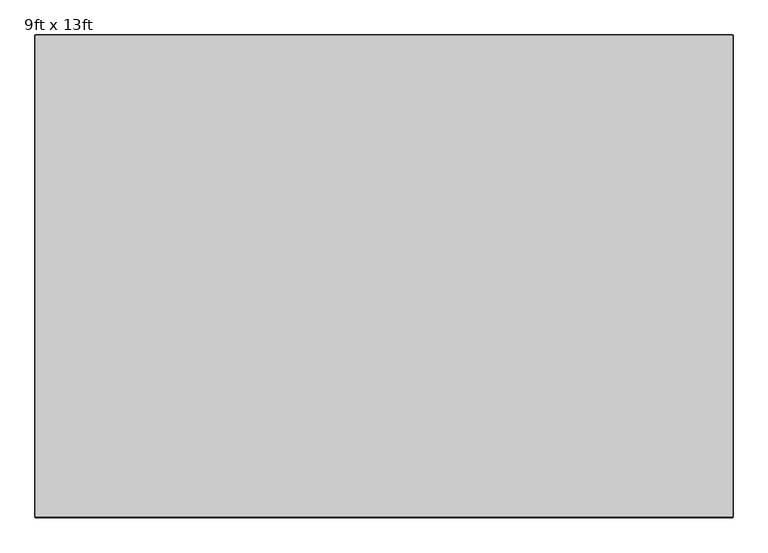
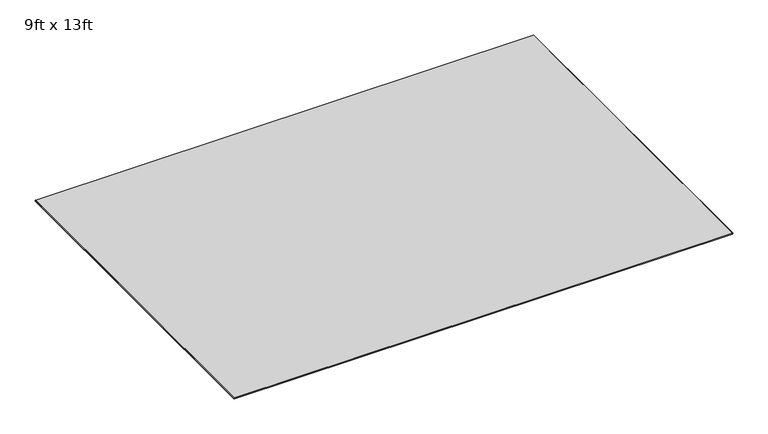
"""IFC4 building model written with IfcOpenShell, lengths in millimetres: furniture geometry, Steelcase Coalesse - Nanimarquina - Rug - Diagonal : 9ft x 13ft."""

from ifc_helpers import new_model, si_unit, frame, origin, place, context, project, spatial, polyline, circle_curve, source, transform, mapped, element, save
from ifc_brep_helpers import plane_surface, cylinder_surface, revolved_surface, advanced_brep


def furniture_9ft_x_13ft_08a4db6d(model_context):
    return source(origin(), model_context, "Body", "AdvancedBrep", [
        advanced_brep(
        [(-663.9665124, 796.3794681, 4.4450002), (-658.8809829, 801.4649977, 4.4450002), (-658.8809829, 801.4649977, 0.0), (-663.9665124, 796.3794681, 0.0), (-661.4265124, 796.3794681, 6.9850002), (-658.8809829, 798.9249977, 6.9850002), (-663.9665124, -1936.6550023, 0.0), (-663.9665124, -1936.6550023, 4.4450002), (-661.4265124, -1936.6550023, 6.9850002), (-658.8865124, -1941.7350023, 0.0), (-658.8865124, -1941.7350023, 4.4450002), (-658.8865124, -1939.1950023, 6.9850002), (3293.3533713, -1941.7350023, 0.0), (3293.3533713, -1941.7350023, 4.4450002), (3293.3533713, -1939.1950023, 6.9850002), (3298.4333713, -1936.6550023, 0.0), (3298.4333713, -1936.6550023, 4.4450002), (3295.8933713, -1936.6550023, 6.9850002), (3298.4333713, 796.3849977, 0.0), (3298.4333713, 796.3849977, 4.4450002), (3295.8933713, 796.3849977, 6.9850002), (3293.3533713, 801.4649977, 0.0), (3293.3533713, 801.4649977, 4.4450002), (3293.3533713, 798.9249977, 6.9850002)],
        [
            (0, 1, circle_curve(frame((-658.8809829, 796.3794681, 4.4450002), z_axis=(0.0, 0.0, -1.0), x_axis=(0.0, 1.0, 0.0)), 5.0855296)),
            (1, 2),
            (2, 3, circle_curve(frame((-658.8809829, 796.3794681, 0.0), z_axis=(0.0, 0.0, 1.0), x_axis=(0.0, 1.0, 0.0)), 5.0855296)),
            (3, 0),
            (0, 4),
            (4, 5, circle_curve(frame((-658.8809829, 796.3794681, 6.9850002), z_axis=(0.0, 0.0, -1.0), x_axis=(0.0, 1.0, 0.0)), 2.5455296)),
            (5, 1),
            (3, 6),
            (6, 7),
            (7, 0),
            (7, 8),
            (8, 4),
            (6, 9, circle_curve(frame((-658.8865124, -1936.6550023, 0.0), z_axis=(0.0, 0.0, 1.0), x_axis=(-1.0, 0.0, 0.0)), 5.08)),
            (9, 10),
            (10, 7, circle_curve(frame((-658.8865124, -1936.6550023, 4.4450002), z_axis=(0.0, 0.0, -1.0), x_axis=(-1.0, 0.0, 0.0)), 5.08)),
            (10, 11),
            (11, 8, circle_curve(frame((-658.8865124, -1936.6550023, 6.9850002), z_axis=(0.0, 0.0, -1.0), x_axis=(-1.0, 0.0, 0.0)), 2.54)),
            (9, 12),
            (12, 13),
            (13, 10),
            (13, 14),
            (14, 11),
            (12, 15, circle_curve(frame((3293.3533713, -1936.6550023, 0.0), z_axis=(0.0, 0.0, 1.0), x_axis=(0.0, -1.0, 0.0)), 5.08)),
            (15, 16),
            (16, 13, circle_curve(frame((3293.3533713, -1936.6550023, 4.4450002), z_axis=(0.0, 0.0, -1.0), x_axis=(0.0, -1.0, 0.0)), 5.08)),
            (16, 17),
            (17, 14, circle_curve(frame((3293.3533713, -1936.6550023, 6.9850002), z_axis=(0.0, 0.0, -1.0), x_axis=(0.0, -1.0, 0.0)), 2.54)),
            (15, 18),
            (18, 19),
            (19, 16),
            (19, 20),
            (20, 17),
            (18, 21, circle_curve(frame((3293.3533713, 796.3849977, 0.0), z_axis=(0.0, 0.0, 1.0), x_axis=(1.0, 0.0, 0.0)), 5.08)),
            (21, 22),
            (22, 19, circle_curve(frame((3293.3533713, 796.3849977, 4.4450002), z_axis=(0.0, 0.0, -1.0), x_axis=(1.0, 0.0, 0.0)), 5.08)),
            (22, 23),
            (23, 20, circle_curve(frame((3293.3533713, 796.3849977, 6.9850002), z_axis=(0.0, 0.0, -1.0), x_axis=(1.0, 0.0, 0.0)), 2.54)),
            (2, 21),
            (1, 22),
            (5, 23),
        ],
        [
            cylinder_surface(frame((-658.8809829, 796.3794681, 0.0), z_axis=(0.0, 0.0, 1.0), x_axis=(0.0, 1.0, 0.0)), 5.0855296),
            revolved_surface(polyline([(-658.8809829, 801.4649977, 4.4450002), (-658.8809829, 798.9249977, 6.9850002)]), (-658.8809829, 796.3794681, 0.0), (0.0, 0.0, 1.0)),
            plane_surface(frame((-663.9665124, 796.3794681, 0.0), z_axis=(-1.0, 0.0, 0.0), x_axis=(0.0, -1.0, 0.0))),
            plane_surface(frame((-663.9665124, 796.3794681, 4.4450002), z_axis=(-0.7071067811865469, 0.0, 0.7071067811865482), x_axis=(0.0, -1.0, 0.0))),
            cylinder_surface(frame((-658.8865124, -1936.6550023, 0.0), z_axis=(0.0, 0.0, 1.0), x_axis=(-1.0, 0.0, 0.0)), 5.08),
            revolved_surface(polyline([(-663.9665124, -1936.6550023, 4.4450002), (-661.4265124, -1936.6550023, 6.9850002)]), (-658.8865124, -1936.6550023, 0.0), (0.0, 0.0, 1.0)),
            plane_surface(frame((-658.8865124, -1941.7350023, 0.0), z_axis=(0.0, -1.0, 0.0), x_axis=(1.0, 0.0, 0.0))),
            plane_surface(frame((-658.8865124, -1941.7350023, 4.4450002), z_axis=(0.0, -0.7071067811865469, 0.7071067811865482), x_axis=(1.0, 0.0, 0.0))),
            cylinder_surface(frame((3293.3533713, -1936.6550023, 0.0), z_axis=(0.0, 0.0, 1.0), x_axis=(0.0, -1.0, 0.0)), 5.08),
            revolved_surface(polyline([(3293.3533713, -1941.7350023, 4.4450002), (3293.3533713, -1939.1950023, 6.9850002)]), (3293.3533713, -1936.6550023, 0.0), (0.0, 0.0, 1.0)),
            plane_surface(frame((3298.4333713, -1936.6550023, 0.0), z_axis=(1.0, 0.0, 0.0), x_axis=(0.0, 1.0, 0.0))),
            plane_surface(frame((3298.4333713, -1936.6550023, 4.4450002), z_axis=(0.7071067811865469, 0.0, 0.7071067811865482), x_axis=(0.0, 1.0, 0.0))),
            cylinder_surface(frame((3293.3533713, 796.3849977, 0.0), z_axis=(0.0, 0.0, 1.0), x_axis=(1.0, 0.0, 0.0)), 5.08),
            revolved_surface(polyline([(3298.4333713, 796.3849977, 4.4450002), (3295.8933713, 796.3849977, 6.9850002)]), (3293.3533713, 796.3849977, 0.0), (0.0, 0.0, 1.0)),
            plane_surface(frame((3293.3533713, 798.9249977, 0.0), z_axis=(0.0, 0.0, -1.0), x_axis=(-1.0, 0.0, 0.0))),
            plane_surface(frame((3293.3533713, 801.4649977, 0.0), z_axis=(0.0, 1.0, 0.0), x_axis=(-1.0, 0.0, 0.0))),
            plane_surface(frame((3293.3533713, 801.4649977, 4.4450002), z_axis=(0.0, 0.7071067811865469, 0.7071067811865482), x_axis=(-1.0, 0.0, 0.0))),
            plane_surface(frame((-658.8809829, 798.9249977, 6.9850002), z_axis=(0.0, 0.0, 1.0), x_axis=(-1.0, 0.0, 0.0))),
        ],
        [
            (0, [[1, 2, 3, 4]]),
            (1, [[-1, 5, 6, 7]]),
            (2, [[-4, 8, 9, 10]]),
            (3, [[-5, -10, 11, 12]]),
            (4, [[-9, 13, 14, 15]]),
            (5, [[-11, -15, 16, 17]]),
            (6, [[-14, 18, 19, 20]]),
            (7, [[-16, -20, 21, 22]]),
            (8, [[-19, 23, 24, 25]]),
            (9, [[-21, -25, 26, 27]]),
            (10, [[-24, 28, 29, 30]]),
            (11, [[-26, -30, 31, 32]]),
            (12, [[-29, 33, 34, 35]]),
            (13, [[-31, -35, 36, 37]]),
            (14, [[-3, 38, -33, -28, -23, -18, -13, -8]]),
            (15, [[-2, 39, -34, -38]]),
            (16, [[-7, 40, -36, -39]]),
            (17, [[-6, -12, -17, -22, -27, -32, -37, -40]]),
        ],
    ),
    ])


if __name__ == "__main__":
    model = new_model("IFC4")
    model_context = context("Model", 3, world=origin())
    ifc_project = project(units=[si_unit("LENGTHUNIT", "METRE", prefix="MILLI")], contexts=[model_context])
    site = spatial("IfcSite", under=ifc_project)
    building = spatial("IfcBuilding", under=site)
    placement = place(None, origin())
    furniture_9ft_x_13ft_shape = furniture_9ft_x_13ft_08a4db6d(model_context)
    element("IfcFurniture", 1, ObjectType="Steelcase Coalesse - Nanimarquina - Rug - Diagonal : 9ft x 13ft", at=placement, inside=building, context=model_context, shape_type="MappedRepresentation", body=[
        mapped(furniture_9ft_x_13ft_shape, transform((0.0, 0.0, 0.0), x_axis=(1.0, 0.0, 0.0), y_axis=(0.0, 1.0, 0.0), z_axis=(0.0, 0.0, 1.0))),
    ])
    save(model, "model.ifc")
